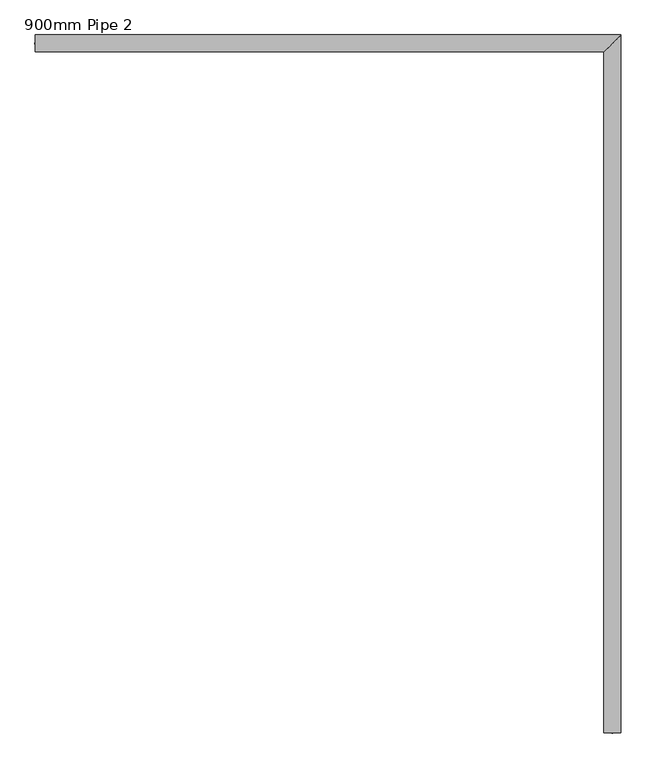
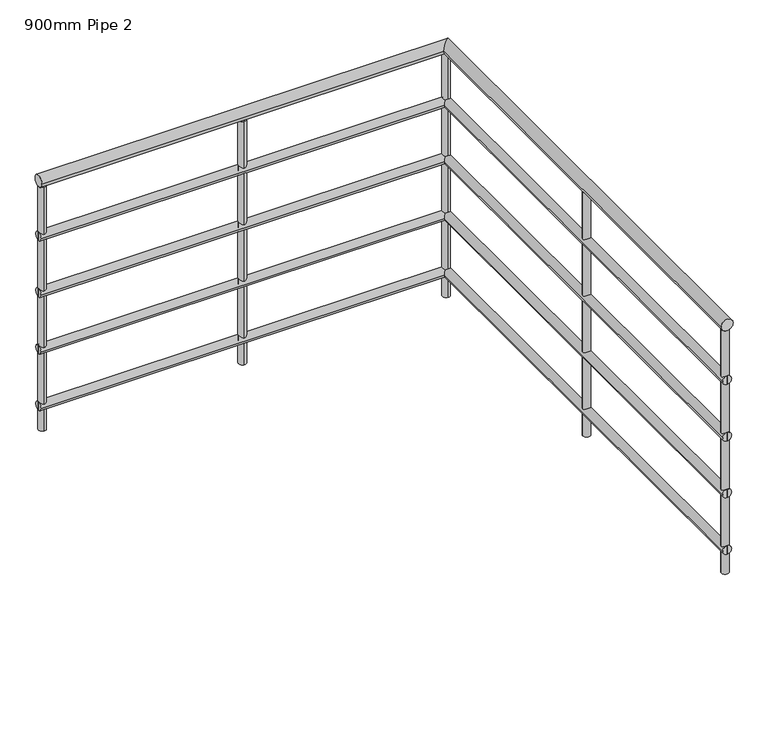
"""IFC4 building model written with IfcOpenShell, lengths in millimetres: railing geometry, 900mm Pipe 2."""

from ifc_helpers import new_model, si_unit, point, frame, frame_2d, origin, place, context, project, spatial, circle_curve, ellipse_curve, trimmed, segment, composite_curve, outline, extrude, source, transform, mapped, element, save
from ifc_brep_helpers import plane_surface, cylinder_surface, advanced_brep


def railing_900mm_pipe_2_c8c119c8(model_context):
    return source(origin(), model_context, "Body", "SolidModel", [
        advanced_brep(
        [(-5223.3266822, -596.8406402, 3880.0), (-5223.3266822, -556.8406402, 3880.0), (-3881.8266822, -596.8406402, 3880.0), (-3841.8266822, -556.8406402, 3880.0), (-3881.8266822, -2201.8406402, 3880.0), (-3841.8266822, -2201.8406402, 3880.0)],
        [
            (0, 1, circle_curve(frame((-5223.3266822, -576.8406402, 3880.0), z_axis=(-1.0, 0.0, 0.0), x_axis=(0.0, 1.0, 0.0)), 20.0)),
            (1, 0, circle_curve(frame((-5223.3266822, -576.8406402, 3880.0), z_axis=(-1.0, 0.0, 0.0), x_axis=(0.0, 1.0, 0.0)), 20.0)),
            (0, 2),
            (2, 3, ellipse_curve(frame((-3861.8266822, -576.8406402, 3880.0), z_axis=(-0.7071067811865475, 0.7071067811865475, 0.0), x_axis=(-0.7071067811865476, -0.7071067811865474, 0.0)), 28.2842712, 20.0)),
            (3, 1),
            (3, 2, ellipse_curve(frame((-3861.8266822, -576.8406402, 3880.0), z_axis=(-0.7071067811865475, 0.7071067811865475, 0.0), x_axis=(-0.7071067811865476, -0.7071067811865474, 0.0)), 28.2842712, 20.0)),
            (4, 5, circle_curve(frame((-3861.8266822, -2201.8406402, 3880.0), z_axis=(0.0, -1.0, 0.0), x_axis=(1.0, 0.0, 0.0)), 20.0)),
            (5, 4, circle_curve(frame((-3861.8266822, -2201.8406402, 3880.0), z_axis=(0.0, -1.0, 0.0), x_axis=(1.0, 0.0, 0.0)), 20.0)),
            (2, 4),
            (5, 3),
        ],
        [
            plane_surface(frame((-5223.3266822, -576.8406402, 3900.0), z_axis=(-1.0, 0.0, 0.0), x_axis=(0.0, 1.0, 0.0))),
            cylinder_surface(frame((-5223.3266822, -576.8406402, 3880.0), z_axis=(-1.0, 0.0, 0.0), x_axis=(0.0, 1.0, 0.0)), 20.0),
            plane_surface(frame((-3861.8266822, -2201.8406402, 3900.0), z_axis=(0.0, -1.0, 0.0), x_axis=(0.0, 0.0, -1.0))),
            cylinder_surface(frame((-3861.8266822, -576.8406402, 3880.0), z_axis=(0.0, 1.0, 0.0), x_axis=(1.0, 0.0, 0.0)), 20.0),
        ],
        [
            (0, [[1, 2]]),
            (1, [[-1, 3, 4, 5]]),
            (1, [[-2, -5, 6, -3]]),
            (2, [[7, 8]]),
            (3, [[-4, 9, -8, 10]]),
            (3, [[-6, -10, -7, -9]]),
        ],
    ),
        advanced_brep(
        [(-5223.3266822, -591.8406402, 3685.0), (-5223.3266822, -561.8406402, 3685.0), (-3876.8266822, -591.8406402, 3685.0), (-3846.8266822, -561.8406402, 3685.0), (-3876.8266822, -2201.8406402, 3685.0), (-3846.8266822, -2201.8406402, 3685.0)],
        [
            (0, 1, circle_curve(frame((-5223.3266822, -576.8406402, 3685.0), z_axis=(-1.0, 0.0, 0.0), x_axis=(0.0, 1.0, 0.0)), 15.0)),
            (1, 0, circle_curve(frame((-5223.3266822, -576.8406402, 3685.0), z_axis=(-1.0, 0.0, 0.0), x_axis=(0.0, 1.0, 0.0)), 15.0)),
            (0, 2),
            (2, 3, ellipse_curve(frame((-3861.8266822, -576.8406402, 3685.0), z_axis=(-0.7071067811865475, 0.7071067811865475, 0.0), x_axis=(-0.7071067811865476, -0.7071067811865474, 0.0)), 21.2132034, 15.0)),
            (3, 1),
            (3, 2, ellipse_curve(frame((-3861.8266822, -576.8406402, 3685.0), z_axis=(-0.7071067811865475, 0.7071067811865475, 0.0), x_axis=(-0.7071067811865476, -0.7071067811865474, 0.0)), 21.2132034, 15.0)),
            (4, 5, circle_curve(frame((-3861.8266822, -2201.8406402, 3685.0), z_axis=(0.0, -1.0, 0.0), x_axis=(1.0, 0.0, 0.0)), 15.0)),
            (5, 4, circle_curve(frame((-3861.8266822, -2201.8406402, 3685.0), z_axis=(0.0, -1.0, 0.0), x_axis=(1.0, 0.0, 0.0)), 15.0)),
            (2, 4),
            (5, 3),
        ],
        [
            plane_surface(frame((-5223.3266822, -576.8406402, 3700.0), z_axis=(-1.0, 0.0, 0.0), x_axis=(0.0, 1.0, 0.0))),
            cylinder_surface(frame((-5223.3266822, -576.8406402, 3685.0), z_axis=(-1.0, 0.0, 0.0), x_axis=(0.0, 1.0, 0.0)), 15.0),
            plane_surface(frame((-3861.8266822, -2201.8406402, 3700.0), z_axis=(0.0, -1.0, 0.0), x_axis=(0.0, 0.0, -1.0))),
            cylinder_surface(frame((-3861.8266822, -576.8406402, 3685.0), z_axis=(0.0, 1.0, 0.0), x_axis=(1.0, 0.0, 0.0)), 15.0),
        ],
        [
            (0, [[1, 2]]),
            (1, [[-1, 3, 4, 5]]),
            (1, [[-2, -5, 6, -3]]),
            (2, [[7, 8]]),
            (3, [[-4, 9, -8, 10]]),
            (3, [[-6, -10, -7, -9]]),
        ],
    ),
        advanced_brep(
        [(-5223.3266822, -591.8406402, 3485.0), (-5223.3266822, -561.8406402, 3485.0), (-3876.8266822, -591.8406402, 3485.0), (-3846.8266822, -561.8406402, 3485.0), (-3876.8266822, -2201.8406402, 3485.0), (-3846.8266822, -2201.8406402, 3485.0)],
        [
            (0, 1, circle_curve(frame((-5223.3266822, -576.8406402, 3485.0), z_axis=(-1.0, 0.0, 0.0), x_axis=(0.0, 1.0, 0.0)), 15.0)),
            (1, 0, circle_curve(frame((-5223.3266822, -576.8406402, 3485.0), z_axis=(-1.0, 0.0, 0.0), x_axis=(0.0, 1.0, 0.0)), 15.0)),
            (0, 2),
            (2, 3, ellipse_curve(frame((-3861.8266822, -576.8406402, 3485.0), z_axis=(-0.7071067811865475, 0.7071067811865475, 0.0), x_axis=(-0.7071067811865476, -0.7071067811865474, 0.0)), 21.2132034, 15.0)),
            (3, 1),
            (3, 2, ellipse_curve(frame((-3861.8266822, -576.8406402, 3485.0), z_axis=(-0.7071067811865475, 0.7071067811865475, 0.0), x_axis=(-0.7071067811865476, -0.7071067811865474, 0.0)), 21.2132034, 15.0)),
            (4, 5, circle_curve(frame((-3861.8266822, -2201.8406402, 3485.0), z_axis=(0.0, -1.0, 0.0), x_axis=(1.0, 0.0, 0.0)), 15.0)),
            (5, 4, circle_curve(frame((-3861.8266822, -2201.8406402, 3485.0), z_axis=(0.0, -1.0, 0.0), x_axis=(1.0, 0.0, 0.0)), 15.0)),
            (2, 4),
            (5, 3),
        ],
        [
            plane_surface(frame((-5223.3266822, -576.8406402, 3500.0), z_axis=(-1.0, 0.0, 0.0), x_axis=(0.0, 1.0, 0.0))),
            cylinder_surface(frame((-5223.3266822, -576.8406402, 3485.0), z_axis=(-1.0, 0.0, 0.0), x_axis=(0.0, 1.0, 0.0)), 15.0),
            plane_surface(frame((-3861.8266822, -2201.8406402, 3500.0), z_axis=(0.0, -1.0, 0.0), x_axis=(0.0, 0.0, -1.0))),
            cylinder_surface(frame((-3861.8266822, -576.8406402, 3485.0), z_axis=(0.0, 1.0, 0.0), x_axis=(1.0, 0.0, 0.0)), 15.0),
        ],
        [
            (0, [[1, 2]]),
            (1, [[-1, 3, 4, 5]]),
            (1, [[-2, -5, 6, -3]]),
            (2, [[7, 8]]),
            (3, [[-4, 9, -8, 10]]),
            (3, [[-6, -10, -7, -9]]),
        ],
    ),
        advanced_brep(
        [(-5223.3266822, -591.8406402, 3285.0), (-5223.3266822, -561.8406402, 3285.0), (-3876.8266822, -591.8406402, 3285.0), (-3846.8266822, -561.8406402, 3285.0), (-3876.8266822, -2201.8406402, 3285.0), (-3846.8266822, -2201.8406402, 3285.0)],
        [
            (0, 1, circle_curve(frame((-5223.3266822, -576.8406402, 3285.0), z_axis=(-1.0, 0.0, 0.0), x_axis=(0.0, 1.0, 0.0)), 15.0)),
            (1, 0, circle_curve(frame((-5223.3266822, -576.8406402, 3285.0), z_axis=(-1.0, 0.0, 0.0), x_axis=(0.0, 1.0, 0.0)), 15.0)),
            (0, 2),
            (2, 3, ellipse_curve(frame((-3861.8266822, -576.8406402, 3285.0), z_axis=(-0.7071067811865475, 0.7071067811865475, 0.0), x_axis=(-0.7071067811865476, -0.7071067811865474, 0.0)), 21.2132034, 15.0)),
            (3, 1),
            (3, 2, ellipse_curve(frame((-3861.8266822, -576.8406402, 3285.0), z_axis=(-0.7071067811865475, 0.7071067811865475, 0.0), x_axis=(-0.7071067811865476, -0.7071067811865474, 0.0)), 21.2132034, 15.0)),
            (4, 5, circle_curve(frame((-3861.8266822, -2201.8406402, 3285.0), z_axis=(0.0, -1.0, 0.0), x_axis=(1.0, 0.0, 0.0)), 15.0)),
            (5, 4, circle_curve(frame((-3861.8266822, -2201.8406402, 3285.0), z_axis=(0.0, -1.0, 0.0), x_axis=(1.0, 0.0, 0.0)), 15.0)),
            (2, 4),
            (5, 3),
        ],
        [
            plane_surface(frame((-5223.3266822, -576.8406402, 3300.0), z_axis=(-1.0, 0.0, 0.0), x_axis=(0.0, 1.0, 0.0))),
            cylinder_surface(frame((-5223.3266822, -576.8406402, 3285.0), z_axis=(-1.0, 0.0, 0.0), x_axis=(0.0, 1.0, 0.0)), 15.0),
            plane_surface(frame((-3861.8266822, -2201.8406402, 3300.0), z_axis=(0.0, -1.0, 0.0), x_axis=(0.0, 0.0, -1.0))),
            cylinder_surface(frame((-3861.8266822, -576.8406402, 3285.0), z_axis=(0.0, 1.0, 0.0), x_axis=(1.0, 0.0, 0.0)), 15.0),
        ],
        [
            (0, [[1, 2]]),
            (1, [[-1, 3, 4, 5]]),
            (1, [[-2, -5, 6, -3]]),
            (2, [[7, 8]]),
            (3, [[-4, 9, -8, 10]]),
            (3, [[-6, -10, -7, -9]]),
        ],
    ),
        advanced_brep(
        [(-5223.3266822, -591.8406402, 3085.0), (-5223.3266822, -561.8406402, 3085.0), (-3876.8266822, -591.8406402, 3085.0), (-3846.8266822, -561.8406402, 3085.0), (-3876.8266822, -2201.8406402, 3085.0), (-3846.8266822, -2201.8406402, 3085.0)],
        [
            (0, 1, circle_curve(frame((-5223.3266822, -576.8406402, 3085.0), z_axis=(-1.0, 0.0, 0.0), x_axis=(0.0, 1.0, 0.0)), 15.0)),
            (1, 0, circle_curve(frame((-5223.3266822, -576.8406402, 3085.0), z_axis=(-1.0, 0.0, 0.0), x_axis=(0.0, 1.0, 0.0)), 15.0)),
            (0, 2),
            (2, 3, ellipse_curve(frame((-3861.8266822, -576.8406402, 3085.0), z_axis=(-0.7071067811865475, 0.7071067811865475, 0.0), x_axis=(-0.7071067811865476, -0.7071067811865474, 0.0)), 21.2132034, 15.0)),
            (3, 1),
            (3, 2, ellipse_curve(frame((-3861.8266822, -576.8406402, 3085.0), z_axis=(-0.7071067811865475, 0.7071067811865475, 0.0), x_axis=(-0.7071067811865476, -0.7071067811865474, 0.0)), 21.2132034, 15.0)),
            (4, 5, circle_curve(frame((-3861.8266822, -2201.8406402, 3085.0), z_axis=(0.0, -1.0, 0.0), x_axis=(1.0, 0.0, 0.0)), 15.0)),
            (5, 4, circle_curve(frame((-3861.8266822, -2201.8406402, 3085.0), z_axis=(0.0, -1.0, 0.0), x_axis=(1.0, 0.0, 0.0)), 15.0)),
            (2, 4),
            (5, 3),
        ],
        [
            plane_surface(frame((-5223.3266822, -576.8406402, 3100.0), z_axis=(-1.0, 0.0, 0.0), x_axis=(0.0, 1.0, 0.0))),
            cylinder_surface(frame((-5223.3266822, -576.8406402, 3085.0), z_axis=(-1.0, 0.0, 0.0), x_axis=(0.0, 1.0, 0.0)), 15.0),
            plane_surface(frame((-3861.8266822, -2201.8406402, 3100.0), z_axis=(0.0, -1.0, 0.0), x_axis=(0.0, 0.0, -1.0))),
            cylinder_surface(frame((-3861.8266822, -576.8406402, 3085.0), z_axis=(0.0, 1.0, 0.0), x_axis=(1.0, 0.0, 0.0)), 15.0),
        ],
        [
            (0, [[1, 2]]),
            (1, [[-1, 3, 4, 5]]),
            (1, [[-2, -5, 6, -3]]),
            (2, [[7, 8]]),
            (3, [[-4, 9, -8, 10]]),
            (3, [[-6, -10, -7, -9]]),
        ],
    ),
        extrude(outline(composite_curve([segment(trimmed(circle_curve(frame_2d((-3861.8266822, -1389.3406402)), 12.5), [point((-3849.3266822, -1389.3406402))], [point((-3874.3266822, -1389.3406402))], False, "CARTESIAN"), True, "CONTINUOUS"), segment(trimmed(circle_curve(frame_2d((-3861.8266822, -1389.3406402)), 12.5), [point((-3874.3266822, -1389.3406402))], [point((-3849.3266822, -1389.3406402))], False, "CARTESIAN"), True, "CONTINUOUS")], self_intersect=False)), frame((0.0, 0.0, 3000.0), z_axis=(0.0, 0.0, 1.0), x_axis=(1.0, 0.0, 0.0)), (0.0, 0.0, 1.0), 860.0),
        extrude(outline(composite_curve([segment(trimmed(circle_curve(frame_2d((-4542.5766822, -576.8406402)), 12.5), [point((-4542.5766822, -564.3406402))], [point((-4542.5766822, -589.3406402))], False, "CARTESIAN"), True, "CONTINUOUS"), segment(trimmed(circle_curve(frame_2d((-4542.5766822, -576.8406402)), 12.5), [point((-4542.5766822, -589.3406402))], [point((-4542.5766822, -564.3406402))], False, "CARTESIAN"), True, "CONTINUOUS")], self_intersect=False)), frame((0.0, 0.0, 3000.0), z_axis=(0.0, 0.0, 1.0), x_axis=(1.0, 0.0, 0.0)), (0.0, 0.0, 1.0), 860.0),
        extrude(outline(composite_curve([segment(trimmed(circle_curve(frame_2d((-3861.8266822, -576.8406402)), 12.5), [point((-3861.8266822, -564.3406402))], [point((-3861.8266822, -589.3406402))], False, "CARTESIAN"), True, "CONTINUOUS"), segment(trimmed(circle_curve(frame_2d((-3861.8266822, -576.8406402)), 12.5), [point((-3861.8266822, -589.3406402))], [point((-3861.8266822, -564.3406402))], False, "CARTESIAN"), True, "CONTINUOUS")], self_intersect=False)), frame((0.0, 0.0, 3000.0), z_axis=(0.0, 0.0, 1.0), x_axis=(1.0, 0.0, 0.0)), (0.0, 0.0, 1.0), 860.0),
        extrude(outline(composite_curve([segment(trimmed(circle_curve(frame_2d((-3861.8266822, -2189.6540413)), 12.5), [point((-3849.3266822, -2189.6540413))], [point((-3874.3266822, -2189.6540413))], False, "CARTESIAN"), True, "CONTINUOUS"), segment(trimmed(circle_curve(frame_2d((-3861.8266822, -2189.6540413)), 12.5), [point((-3874.3266822, -2189.6540413))], [point((-3849.3266822, -2189.6540413))], False, "CARTESIAN"), True, "CONTINUOUS")], self_intersect=False)), frame((0.0, 0.0, 3000.0), z_axis=(0.0, 0.0, 1.0), x_axis=(1.0, 0.0, 0.0)), (0.0, 0.0, 1.0), 860.0),
        extrude(outline(composite_curve([segment(trimmed(circle_curve(frame_2d((-5211.1400833, -576.8406402)), 12.5), [point((-5211.1400833, -564.3406402))], [point((-5211.1400833, -589.3406402))], False, "CARTESIAN"), True, "CONTINUOUS"), segment(trimmed(circle_curve(frame_2d((-5211.1400833, -576.8406402)), 12.5), [point((-5211.1400833, -589.3406402))], [point((-5211.1400833, -564.3406402))], False, "CARTESIAN"), True, "CONTINUOUS")], self_intersect=False)), frame((0.0, 0.0, 3000.0), z_axis=(0.0, 0.0, 1.0), x_axis=(1.0, 0.0, 0.0)), (0.0, 0.0, 1.0), 860.0),
    ])


if __name__ == "__main__":
    model = new_model("IFC4")
    model_context = context("Model", 3, world=origin())
    ifc_project = project(units=[si_unit("LENGTHUNIT", "METRE", prefix="MILLI")], contexts=[model_context])
    site = spatial("IfcSite", under=ifc_project)
    building = spatial("IfcBuilding", under=site)
    placement = place(None, origin())
    railing_900mm_pipe_2_shape = railing_900mm_pipe_2_c8c119c8(model_context)
    element("IfcRailing", 1, ObjectType="900mm Pipe 2", at=placement, inside=building, context=model_context, shape_type="MappedRepresentation", body=[
        mapped(railing_900mm_pipe_2_shape, transform((0.0, 0.0, 0.0), x_axis=(1.0, 0.0, 0.0), y_axis=(0.0, 1.0, 0.0), z_axis=(0.0, 0.0, 1.0))),
    ])
    save(model, "model.ifc")
